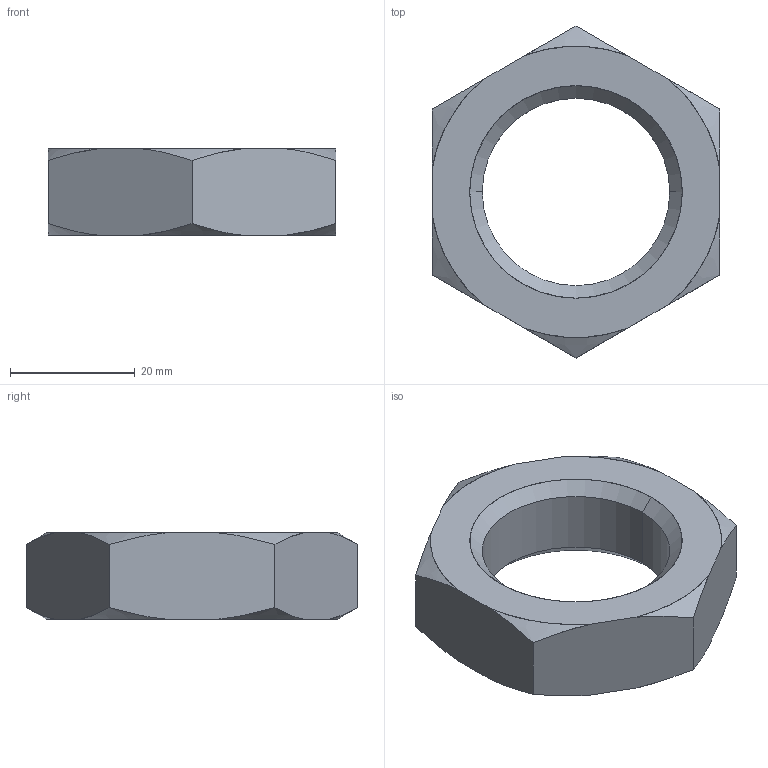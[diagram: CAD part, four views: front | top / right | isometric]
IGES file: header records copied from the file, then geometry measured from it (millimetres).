
Start section: SolidWorks IGES file using analytic representation for surfaces
Global section: file name: C:\Users\liam_\OneDrive\Desktop\Work\Mat Davis Pending 20181125\automotion\P SERIES\P0307.ZP_v2\P0307.ZP_v2_20181215_IGES\P0307.300-200-ZP.igs; native system: SolidWorks 2017; preprocessor: SolidWorks 2017; author: liam_; date: 181215.155209; units: millimetre
Bounding box: 46 x 53.12 x 13.9 mm (x, y, z)
Surface area: 5429 mm2 (no closed solid volume)
Topology: 0 solids, 0 shells, 26 faces, 432 edges, 432 vertices
Faces by surface type: revolution 18, bspline 8
